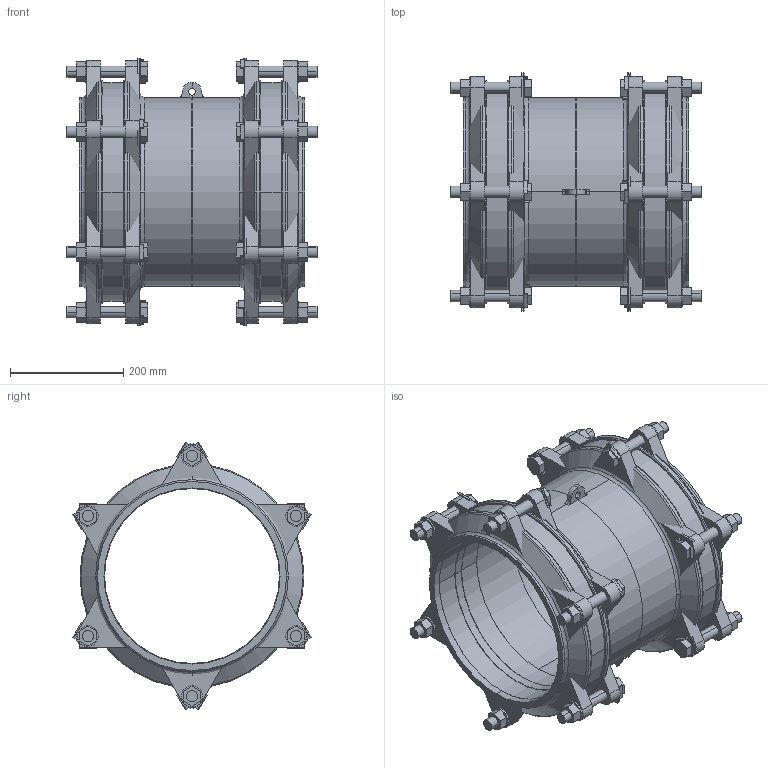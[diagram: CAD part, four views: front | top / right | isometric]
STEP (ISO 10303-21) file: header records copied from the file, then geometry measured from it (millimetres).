
FILE_DESCRIPTION(('STEP AP214'),'1');
FILE_NAME('MJ000063 DN 250.STP','2015-02-06T12:32:37',(' '),(' '),'Spatial InterOp 3D',' ',' ');
FILE_SCHEMA(('automotive_design'));
Length unit declared in the file: millimetre
Products named in the file (60): 3D-Objekt
Bounding box: 441 x 420.33 x 471.96 mm (x, y, z)
Volume: 10365841.5 mm3; surface area: 2198433.7 mm2
Topology: 60 solids, 60 shells, 766 faces, 1788 edges, 1188 vertices
Faces by surface type: plane 534, cylinder 188, torus 24, cone 20
Entity records: 29382 total; most frequent: DIRECTION 3916, CARTESIAN_POINT 3802, ORIENTED_EDGE 3576, EDGE_CURVE 1788, LINE 1312, VECTOR 1312, AXIS2_PLACEMENT_3D 1302, VERTEX_POINT 1188
